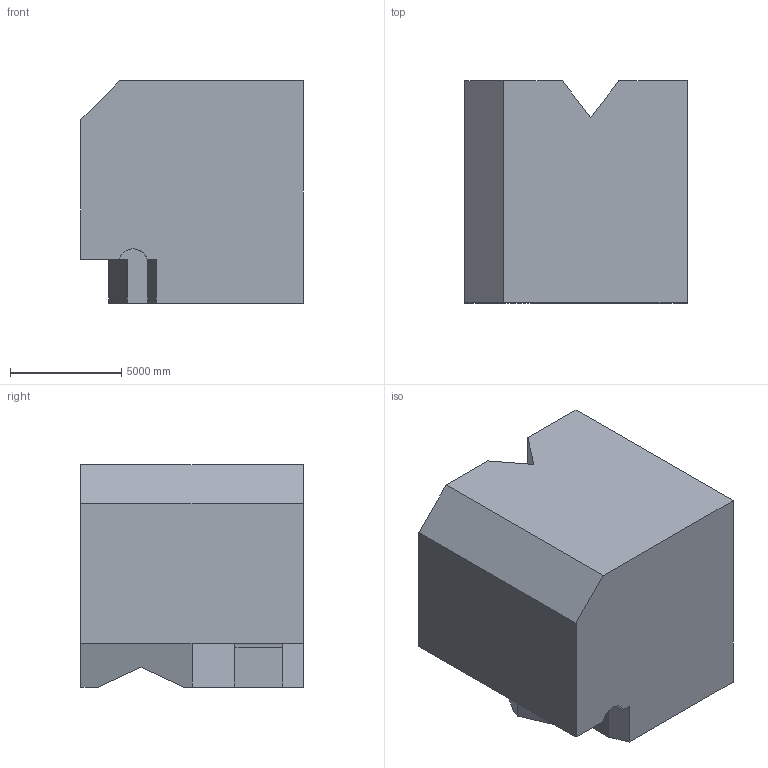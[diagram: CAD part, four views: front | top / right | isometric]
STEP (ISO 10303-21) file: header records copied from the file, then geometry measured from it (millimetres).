
FILE_DESCRIPTION (( 'STEP AP203' ), '1' );
FILE_NAME ('1446.STEP', '2022-08-26T10:18:24', ( 'user' ), ( '' ), 'SwSTEP 2.0', 'SolidWorks 2021', '' );
FILE_SCHEMA (( 'CONFIG_CONTROL_DESIGN' ));
Length unit declared in the file: centimetre
Products named in the file (1): 1446
Bounding box: 10000 x 10000 x 10000 mm (x, y, z)
Volume: 901423732755.6 mm3; surface area: 588908143.1 mm2
Topology: 1 solids, 1 shells, 22 faces, 60 edges, 40 vertices
Faces by surface type: plane 21, cylinder 1
Entity records: 763 total; most frequent: CARTESIAN_POINT 126, ORIENTED_EDGE 120, DIRECTION 107, EDGE_CURVE 60, VECTOR 57, LINE 57, VERTEX_POINT 40, AXIS2_PLACEMENT_3D 25
